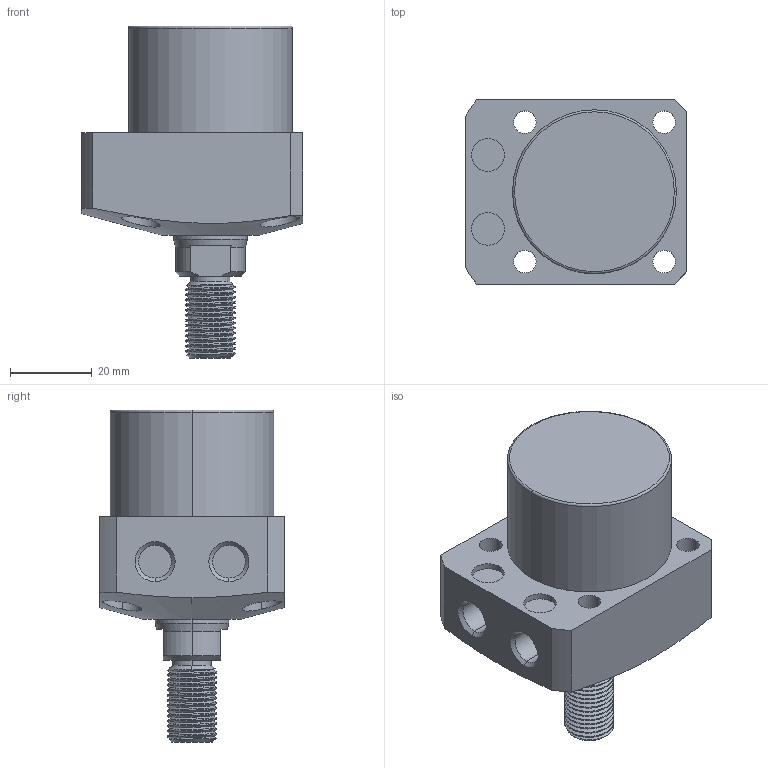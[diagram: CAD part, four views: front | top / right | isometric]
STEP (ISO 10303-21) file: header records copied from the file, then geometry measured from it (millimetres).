
FILE_DESCRIPTION (( 'STEP AP203' ), '1' );
FILE_NAME ('CLL-040CT-(1-14).STEP', '2020-01-08T08:55:13', ( '' ), ( '' ), 'SwSTEP 2.0', 'SolidWorks 2015', '' );
FILE_SCHEMA (( 'CONFIG_CONTROL_DESIGN' ));
Length unit declared in the file: millimetre
Products named in the file (1): CLL-040CT-(1-14)
Bounding box: 54 x 45 x 81 mm (x, y, z)
Volume: 87043.5 mm3; surface area: 16080 mm2
Topology: 1 solids, 1 shells, 106 faces, 267 edges, 174 vertices
Faces by surface type: cylinder 63, plane 23, cone 16, torus 2, bspline 2
Entity records: 5220 total; most frequent: CARTESIAN_POINT 2738, ORIENTED_EDGE 534, DIRECTION 472, EDGE_CURVE 267, AXIS2_PLACEMENT_3D 189, VERTEX_POINT 174, EDGE_LOOP 125, FACE_OUTER_BOUND 106
